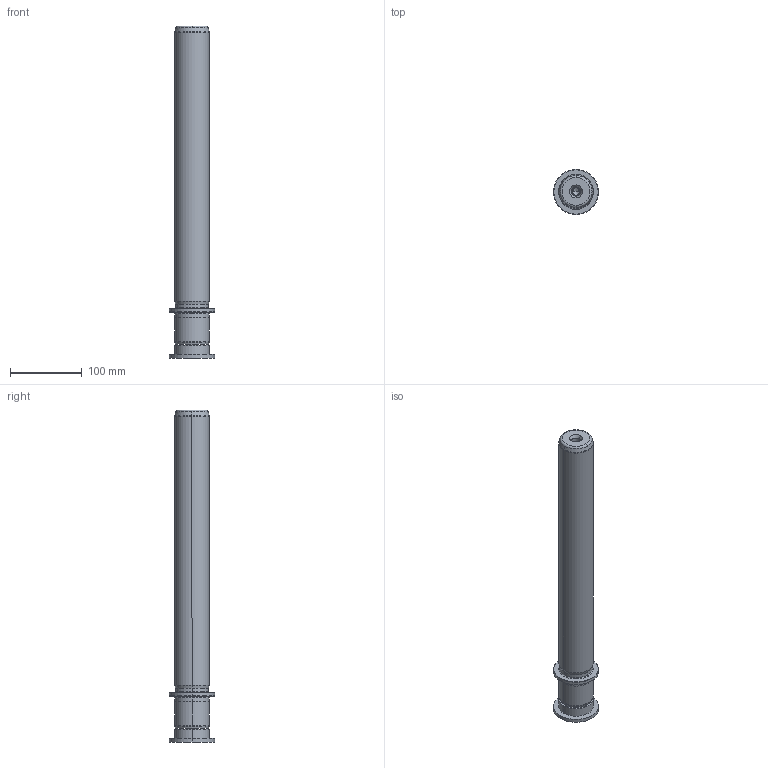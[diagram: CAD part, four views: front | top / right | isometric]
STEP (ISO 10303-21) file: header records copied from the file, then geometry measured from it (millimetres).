
FILE_DESCRIPTION((''),'2;1');
FILE_NAME('P22_048_400.stp','2009-11-02T10:43:14',(''),(''),'Mechanical Desktop 2009','Mechanical Desktop 2009',', , ');
FILE_SCHEMA(('CONFIG_CONTROL_DESIGN'));
Length unit declared in the file: millimetre
Products named in the file (2): Product; blmdl1
Assembly tree (1 placements, depth 2):
  Product
    blmdl1
Bounding box: 63 x 63 x 464 mm (x, y, z)
Volume: 841562.1 mm3; surface area: 87799.4 mm2
Topology: 3 solids, 3 shells, 99 faces, 237 edges, 149 vertices
Faces by surface type: cylinder 32, cone 28, plane 19, torus 10, bspline 10
Entity records: 3419 total; most frequent: CARTESIAN_POINT 923, DIRECTION 570, ORIENTED_EDGE 466, AXIS2_PLACEMENT_3D 246, EDGE_CURVE 233, CIRCLE 155, VERTEX_POINT 149, EDGE_LOOP 110
